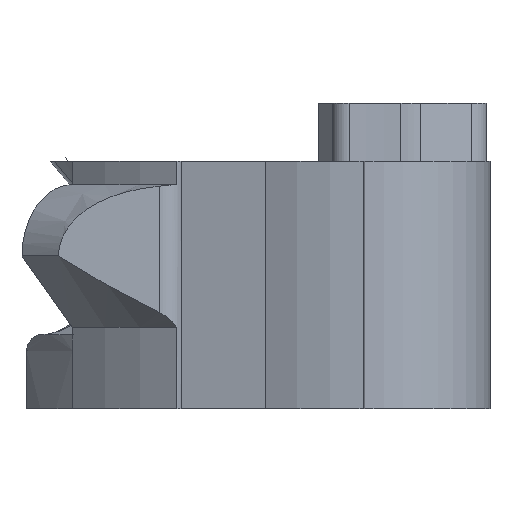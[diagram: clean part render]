
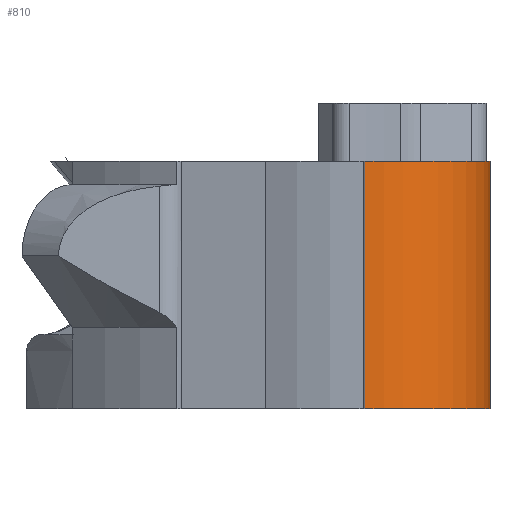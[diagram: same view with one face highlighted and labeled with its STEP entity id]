
A CAD part, front view. The second image highlights one B-rep face of the part: STEP entity #810.
In plain terms, the highlighted cylindrical face has radius 3.175 mm (diameter 6.35 mm), a partial arc.
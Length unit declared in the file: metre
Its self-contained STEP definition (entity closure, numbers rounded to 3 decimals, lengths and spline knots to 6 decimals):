
#20=CYLINDRICAL_SURFACE('',#889,0.003175);
#55=B_SPLINE_CURVE_WITH_KNOTS('',3,(#1425,#1426,#1427,#1428),
 .UNSPECIFIED.,.F.,.F.,(4,4),(0.,1.),.UNSPECIFIED.);
#56=B_SPLINE_CURVE_WITH_KNOTS('',3,(#1432,#1433,#1434,#1435),
 .UNSPECIFIED.,.F.,.F.,(4,4),(0.,1.),.UNSPECIFIED.);
#100=LINE('',#1421,#150);
#102=LINE('',#1437,#152);
#150=VECTOR('',#1030,1.);
#152=VECTOR('',#1036,1.);
#270=ORIENTED_EDGE('',*,*,#505,.T.);
#271=ORIENTED_EDGE('',*,*,#507,.F.);
#272=ORIENTED_EDGE('',*,*,#508,.F.);
#273=ORIENTED_EDGE('',*,*,#509,.T.);
#274=ORIENTED_EDGE('',*,*,#510,.F.);
#275=ORIENTED_EDGE('',*,*,#456,.T.);
#456=EDGE_CURVE('',#586,#585,#666,.T.);
#505=EDGE_CURVE('',#585,#622,#100,.T.);
#507=EDGE_CURVE('',#623,#622,#55,.T.);
#508=EDGE_CURVE('',#624,#623,#678,.T.);
#509=EDGE_CURVE('',#624,#625,#56,.F.);
#510=EDGE_CURVE('',#586,#625,#102,.T.);
#585=VERTEX_POINT('',#1185);
#586=VERTEX_POINT('',#1187);
#622=VERTEX_POINT('',#1422);
#623=VERTEX_POINT('',#1424);
#624=VERTEX_POINT('',#1431);
#625=VERTEX_POINT('',#1436);
#666=CIRCLE('',#865,0.003175);
#678=CIRCLE('',#890,0.003175);
#707=EDGE_LOOP('',(#270,#271,#272,#273,#274,#275));
#751=FACE_BOUND('',#707,.T.);
#810=ADVANCED_FACE('',(#751),#20,.T.);
#865=AXIS2_PLACEMENT_3D('',#1186,#968,#969);
#889=AXIS2_PLACEMENT_3D('',#1429,#1032,#1033);
#890=AXIS2_PLACEMENT_3D('',#1430,#1034,#1035);
#968=DIRECTION('',(0.,0.,-1.));
#969=DIRECTION('',(-1.,0.,0.));
#1030=DIRECTION('',(0.,0.,-1.));
#1032=DIRECTION('',(0.,0.,-1.));
#1033=DIRECTION('',(1.,0.,0.));
#1034=DIRECTION('',(0.,0.,-1.));
#1035=DIRECTION('',(-1.,0.,0.));
#1036=DIRECTION('',(0.,0.,-1.));
#1185=CARTESIAN_POINT('',(-0.00069,-0.003175,-0.003075));
#1186=CARTESIAN_POINT('',(-0.000635,0.,-0.003075));
#1187=CARTESIAN_POINT('',(0.00254,0.,-0.003075));
#1421=CARTESIAN_POINT('',(-0.00069,-0.003175,-0.002975));
#1422=CARTESIAN_POINT('',(-0.00069,-0.003175,-0.007955));
#1424=CARTESIAN_POINT('',(-0.00069,-0.003175,-0.009455));
#1425=CARTESIAN_POINT('',(-0.00069,-0.003175,-0.009455));
#1426=CARTESIAN_POINT('',(-0.00069,-0.003175,-0.008955));
#1427=CARTESIAN_POINT('',(-0.00069,-0.003175,-0.008455));
#1428=CARTESIAN_POINT('',(-0.00069,-0.003175,-0.007955));
#1429=CARTESIAN_POINT('',(-0.000635,0.,-0.002975));
#1430=CARTESIAN_POINT('',(-0.000635,0.,-0.009455));
#1431=CARTESIAN_POINT('',(0.00254,0.,-0.009455));
#1432=CARTESIAN_POINT('',(0.00254,0.,-0.007955));
#1433=CARTESIAN_POINT('',(0.00254,0.,-0.008455));
#1434=CARTESIAN_POINT('',(0.00254,0.,-0.008955));
#1435=CARTESIAN_POINT('',(0.00254,0.,-0.009455));
#1436=CARTESIAN_POINT('',(0.00254,0.,-0.007955));
#1437=CARTESIAN_POINT('',(0.00254,0.,-0.002975));
